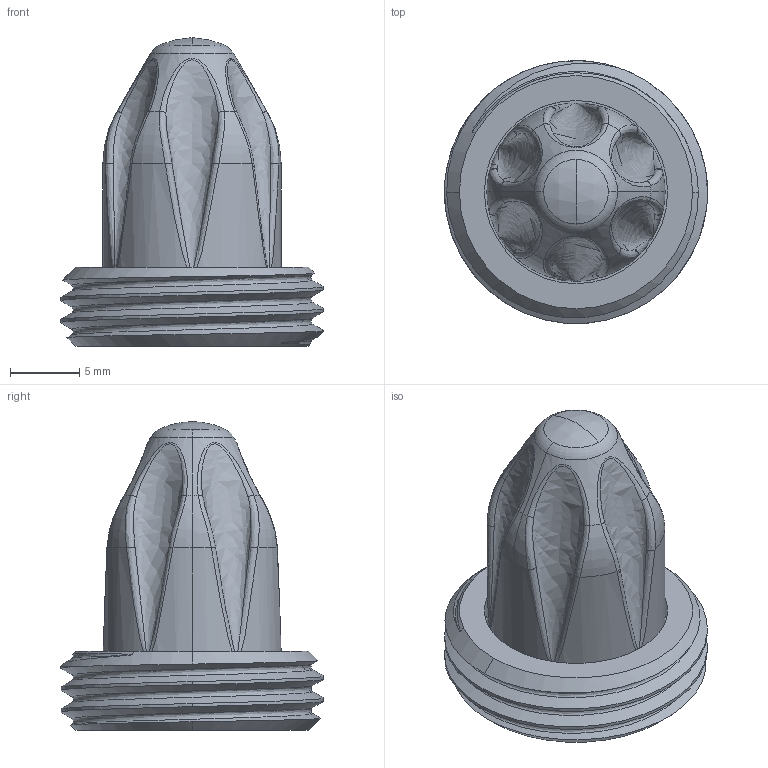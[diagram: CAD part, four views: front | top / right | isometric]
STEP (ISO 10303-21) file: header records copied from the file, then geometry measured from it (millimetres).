
FILE_DESCRIPTION (( 'STEP AP214' ), '1' );
FILE_NAME ('3DFSBA7500000A.STEP', '2021-03-31T17:48:42', ( '' ), ( '' ), 'SwSTEP 2.0', 'SolidWorks 2019', '' );
FILE_SCHEMA (( 'AUTOMOTIVE_DESIGN' ));
Length unit declared in the file: inch
Products named in the file (1): 3DFSBA7500000A
Bounding box: 19.05 x 19.02 x 22.35 mm (x, y, z)
Volume: 2705.9 mm3; surface area: 1693.5 mm2
Topology: 1 solids, 1 shells, 336 faces, 873 edges, 572 vertices
Faces by surface type: plane 197, bspline 110, cylinder 10, torus 10, cone 7, sphere 2
Entity records: 22875 total; most frequent: CARTESIAN_POINT 11457, ORIENTED_EDGE 1746, DIRECTION 1166, EDGE_CURVE 873, LINE 582, VECTOR 582, VERTEX_POINT 572, EDGE_LOOP 369
